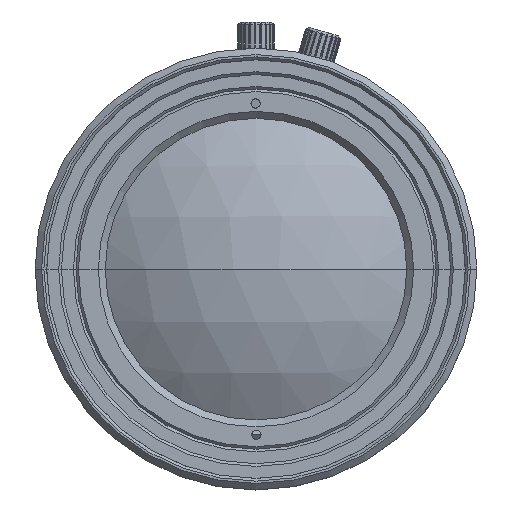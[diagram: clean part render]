
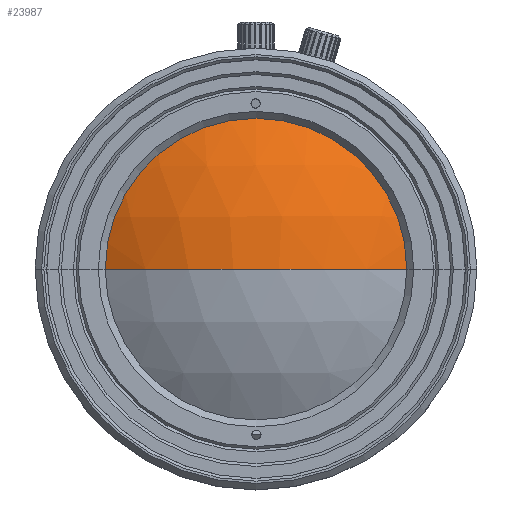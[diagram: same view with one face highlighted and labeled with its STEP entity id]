
A CAD part, top view. The second image highlights one B-rep face of the part: STEP entity #23987.
In plain terms, the highlighted spherical face has radius 29.998 mm.
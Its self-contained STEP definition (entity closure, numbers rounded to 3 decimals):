
#15=SPHERICAL_SURFACE('',#25554,29.998);
#1245=FACE_OUTER_BOUND('',#2561,.T.);
#2561=EDGE_LOOP('',(#15719,#15720));
#4874=CIRCLE('',#25360,29.998);
#4979=CIRCLE('',#25555,16.383);
#9150=VERTEX_POINT('',#33915);
#9151=VERTEX_POINT('',#33917);
#11594=EDGE_CURVE('',#9151,#9150,#4874,.T.);
#12027=EDGE_CURVE('',#9151,#9150,#4979,.T.);
#15719=ORIENTED_EDGE('',*,*,#11594,.T.);
#15720=ORIENTED_EDGE('',*,*,#12027,.F.);
#23987=ADVANCED_FACE('',(#1245),#15,.T.);
#25360=AXIS2_PLACEMENT_3D('',#33918,#27702,#27703);
#25554=AXIS2_PLACEMENT_3D('',#35765,#28161,#28162);
#25555=AXIS2_PLACEMENT_3D('',#35766,#28163,#28164);
#27702=DIRECTION('center_axis',(0.,1.,0.));
#27703=DIRECTION('ref_axis',(0.,0.,
-1.));
#28161=DIRECTION('center_axis',(-0.002,1.,
0.));
#28162=DIRECTION('ref_axis',(1.,0.002,0.));
#28163=DIRECTION('center_axis',(0.,0.,
-1.));
#28164=DIRECTION('ref_axis',(0.,1.,0.));
#33915=CARTESIAN_POINT('',(16.56,0.,-6.869));
#33917=CARTESIAN_POINT('',(-16.205,0.,-6.869));
#33918=CARTESIAN_POINT('Origin',(0.178,0.,
-31.998));
#35765=CARTESIAN_POINT('Origin',(0.178,0.,
-31.998));
#35766=CARTESIAN_POINT('Origin',(0.178,0.,
-6.869));
